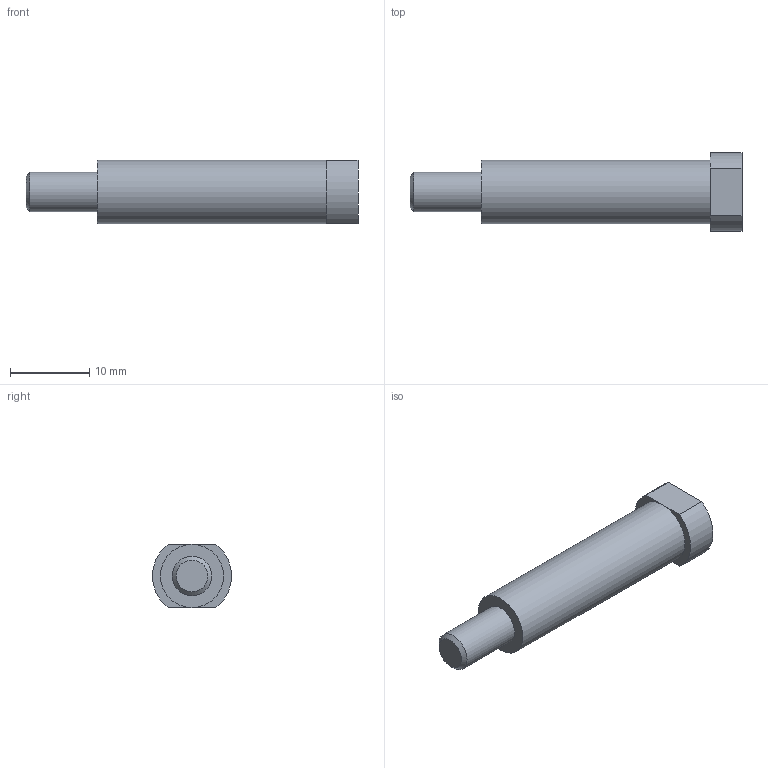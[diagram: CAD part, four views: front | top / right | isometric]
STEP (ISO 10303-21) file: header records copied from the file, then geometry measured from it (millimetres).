
FILE_DESCRIPTION(/* description */ (''),/* implementation_level */ '2;1');
FILE_NAME(/* name */ 'Pin.stp',/* time_stamp */ '2026-04-29T14:59:54+07:00',/* author */ ('dadan'),/* organization */ (''),/* preprocessor_version */ 'ST-DEVELOPER v20.1',/* originating_system */ 'Autodesk Inventor 2026',/* authorisation */ '');
FILE_SCHEMA (('AUTOMOTIVE_DESIGN { 1 0 10303 214 3 1 1 }'));
Length unit declared in the file: millimetre
Products named in the file (1): Pin
Bounding box: 42 x 9.96 x 8 mm (x, y, z)
Volume: 1914 mm3; surface area: 1128.2 mm2
Topology: 1 solids, 1 shells, 12 faces, 24 edges, 15 vertices
Faces by surface type: plane 7, cylinder 4, cone 1
Full cylindrical faces by diameter (mm): 5 x1, 8 x1
Entity records: 358 total; most frequent: DIRECTION 61, CARTESIAN_POINT 52, ORIENTED_EDGE 48, EDGE_CURVE 24, AXIS2_PLACEMENT_3D 24, VERTEX_POINT 15, EDGE_LOOP 13, LINE 13
